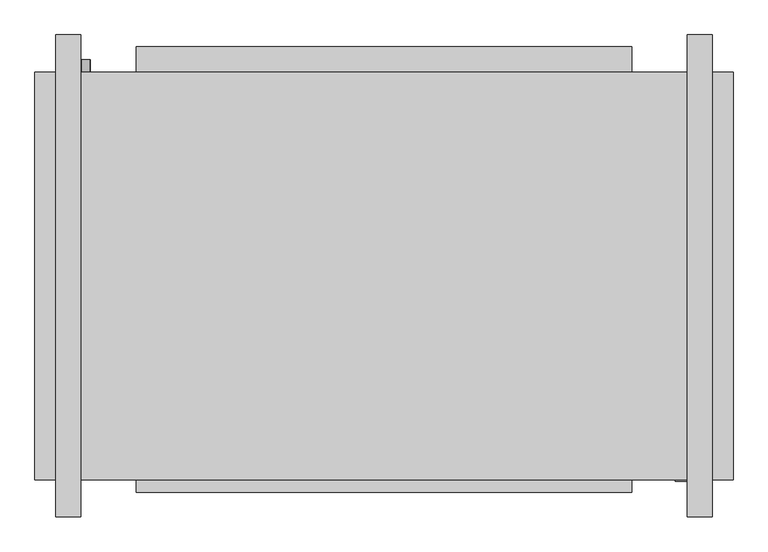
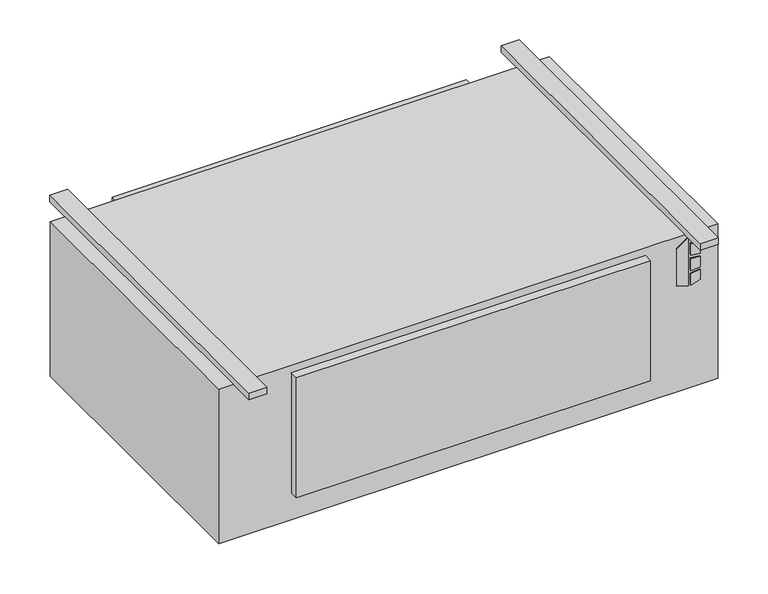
"""IFC4 building model written with IfcOpenShell, lengths in millimetres: proxy geometry, Concealed_High_Capacity_Horizontal_Cabinet_Fan_Coil_Unit_-_HXY_-_IEC_-_2-Pipe_Cool-EHeat_LH_2022 : Size 16 - 277v/60Hz/1Ph - 6 Row 12.0kW."""

import ifcopenshell
import ifcopenshell.guid

model = None  # the IFC model being written
_history = None  # IfcOwnerHistory: only IFC2X3 demands one
_inside = {}  # id of a spatial element -> (the spatial element, [elements in it])
_under = {}  # id of a project, library or spatial element -> (it, [spatial elements below it])
_declared = {}  # id of a project -> (the project, [libraries it declares])
_typed = {}  # id of a type object -> (the type object, [elements of that type])
_made_of = {}  # id of a material, layer set ... -> (it, [elements and type objects made of it])


def new_model(schema):
    """Start an empty IFC model of exactly this schema.

    Asked for "IFC4X3", IfcOpenShell would pick the latest addendum, in which some entities
    have other attributes; the version numbers below select the first issue.
    IFC2X3 requires an IfcOwnerHistory on every rooted entity: one is made here for all.
    """
    global model, _history
    if schema == "IFC4X3":
        model = ifcopenshell.file(schema_version=(4, 3, 0, 0))
    else:
        model = ifcopenshell.file(schema=schema)
    _inside.clear()
    _under.clear()
    _declared.clear()
    _typed.clear()
    _made_of.clear()
    _history = None
    if model.schema == "IFC2X3":
        org = make("IfcOrganization", Name="unknown")
        user = make(
            "IfcPersonAndOrganization",
            ThePerson=make("IfcPerson", FamilyName="unknown"),
            TheOrganization=org,
        )
        app = make(
            "IfcApplication",
            ApplicationDeveloper=org,
            Version="unknown",
            ApplicationFullName="unknown",
            ApplicationIdentifier="unknown",
        )
        _history = make(
            "IfcOwnerHistory",
            OwningUser=user,
            OwningApplication=app,
            ChangeAction="ADDED",
            CreationDate=0,
        )
    return model


def make(cls, **values):
    """One entity of the class cls with the attributes given. An attribute that is None is left unset."""
    return model.create_entity(
        cls, **{name: value for name, value in values.items() if value is not None}
    )


def rooted(cls, **values):
    """An entity with a GlobalId (a new one), such as an element, a storey or a relation."""
    return make(cls, GlobalId=ifcopenshell.guid.new(), OwnerHistory=_history, **values)


def si_unit(unit_type, name, prefix=None):
    """IfcSIUnit, for example si_unit("LENGTHUNIT", "METRE", prefix="MILLI")."""
    return make("IfcSIUnit", UnitType=unit_type, Prefix=prefix, Name=name)


def assignment(units):
    """IfcUnitAssignment: the units of a project."""
    return None if units is None else make("IfcUnitAssignment", Units=units)


def point(xyz):
    """IfcCartesianPoint."""
    return None if xyz is None else make("IfcCartesianPoint", Coordinates=xyz)


def direction(xyz):
    """IfcDirection."""
    return None if xyz is None else make("IfcDirection", DirectionRatios=xyz)


def frame(location, z_axis=None, x_axis=None):
    """IfcAxis2Placement3D, a coordinate frame: its origin and axes. An axis left out is left unset."""
    return make(
        "IfcAxis2Placement3D",
        Location=point(location),
        Axis=direction(z_axis),
        RefDirection=direction(x_axis),
    )


def frame_2d(location, x_axis=None):
    """IfcAxis2Placement2D, a coordinate frame in the plane: its origin and x axis."""
    return make(
        "IfcAxis2Placement2D", Location=point(location), RefDirection=direction(x_axis)
    )


def origin():
    """The frame at (0, 0, 0) with its axes left unset."""
    return frame((0.0, 0.0, 0.0))


def origin_with_axes():
    """The frame at (0, 0, 0) with the z axis (0, 0, 1) and the x axis (1, 0, 0) written out."""
    return frame((0.0, 0.0, 0.0), z_axis=(0.0, 0.0, 1.0), x_axis=(1.0, 0.0, 0.0))


def place(relative_to, where):
    """IfcLocalPlacement: puts the frame where relative to a parent placement (None: the world)."""
    return make(
        "IfcLocalPlacement", PlacementRelTo=relative_to, RelativePlacement=where
    )


def context(
    kind, dimensions, precision=None, world=None, true_north=None, identifier=None
):
    """IfcGeometricRepresentationContext, for example the 3D "Model" context."""
    return make(
        "IfcGeometricRepresentationContext",
        ContextIdentifier=identifier,
        ContextType=kind,
        CoordinateSpaceDimension=dimensions,
        Precision=precision,
        WorldCoordinateSystem=world,
        TrueNorth=true_north,
    )


def project(units=None, contexts=None):
    """IfcProject with its units and contexts."""
    return rooted(
        "IfcProject",
        Name="project",
        RepresentationContexts=contexts,
        UnitsInContext=assignment(units),
    )


def spatial(cls, under=None, at=None, **own):
    """A site, building, storey or space (cls), placed at a placement, below another one or the project."""
    s = rooted(cls, ObjectPlacement=at, **own)
    if under is not None:
        _under.setdefault(under.id(), (under, []))[1].append(s)
    return s


def polyline(points):
    """IfcPolyline through the points."""
    return make("IfcPolyline", Points=[point(p) for p in points])


def circle_curve(where, radius):
    """IfcCircle in the frame where."""
    return make("IfcCircle", Position=where, Radius=radius)


def trimmed(basis, trim1, trim2, sense, master):
    """IfcTrimmedCurve: the piece of a basis curve between two trims."""
    return make(
        "IfcTrimmedCurve",
        BasisCurve=basis,
        Trim1=trim1,
        Trim2=trim2,
        SenseAgreement=sense,
        MasterRepresentation=master,
    )


def segment(curve, same_sense, transition):
    """IfcCompositeCurveSegment."""
    return make(
        "IfcCompositeCurveSegment",
        Transition=transition,
        SameSense=same_sense,
        ParentCurve=curve,
    )


def composite_curve(segments, self_intersect=None):
    """IfcCompositeCurve: segments joined end to end."""
    return make("IfcCompositeCurve", Segments=segments, SelfIntersect=self_intersect)


def outline(outer, holes=None, kind="AREA"):
    """IfcArbitraryClosedProfileDef: a profile drawn as a closed curve; with holes, ...WithVoids."""
    if holes is None:
        return make("IfcArbitraryClosedProfileDef", ProfileType=kind, OuterCurve=outer)
    return make(
        "IfcArbitraryProfileDefWithVoids",
        ProfileType=kind,
        OuterCurve=outer,
        InnerCurves=holes,
    )


def extrude(swept, where, along, depth):
    """IfcExtrudedAreaSolid: the profile swept, set in the frame where, extruded along a direction by depth."""
    return make(
        "IfcExtrudedAreaSolid",
        SweptArea=swept,
        Position=where,
        ExtrudedDirection=direction(along),
        Depth=depth,
    )


def shape(context_of_items, identifier, shape_type, items):
    """IfcShapeRepresentation: the items that make up one representation, for example the "Body"."""
    return make(
        "IfcShapeRepresentation",
        ContextOfItems=context_of_items,
        RepresentationIdentifier=identifier,
        RepresentationType=shape_type,
        Items=items,
    )


def source(mapping_origin, context_of_items, identifier, shape_type, items):
    """IfcRepresentationMap: a shape defined once, which mapped items show again and again."""
    return make(
        "IfcRepresentationMap",
        MappingOrigin=mapping_origin,
        MappedRepresentation=shape(context_of_items, identifier, shape_type, items),
    )


def transform(
    local_origin,
    x_axis=None,
    y_axis=None,
    z_axis=None,
    scale=None,
    scale2=None,
    scale3=None,
    uniform=True,
):
    """IfcCartesianTransformationOperator3D, or its non-uniform kind. x_axis, y_axis, z_axis: its Axis1, 2, 3."""
    if uniform:
        return make(
            "IfcCartesianTransformationOperator3D",
            Axis1=direction(x_axis),
            Axis2=direction(y_axis),
            LocalOrigin=point(local_origin),
            Scale=scale,
            Axis3=direction(z_axis),
        )
    return make(
        "IfcCartesianTransformationOperator3DnonUniform",
        Axis1=direction(x_axis),
        Axis2=direction(y_axis),
        LocalOrigin=point(local_origin),
        Scale=scale,
        Axis3=direction(z_axis),
        Scale2=scale2,
        Scale3=scale3,
    )


def mapped(mapping_source, mapping_target):
    """IfcMappedItem: shows the shape of a source again, moved by a transform."""
    return make(
        "IfcMappedItem", MappingSource=mapping_source, MappingTarget=mapping_target
    )


def made_of(thing, what):
    """Note that an element or type object is made of a material, layer set ...; save() writes the relation."""
    if what is not None:
        _made_of.setdefault(what.id(), (what, []))[1].append(thing)
    return thing


def element(
    cls,
    number,
    at=None,
    inside=None,
    cuts=None,
    type_object=None,
    material=None,
    context=None,
    identifier="Body",
    shape_type=None,
    held_by="IfcProductDefinitionShape",
    body=None,
    shapes=None,
    **own,
):
    """One element of the class cls, such as IfcWall. Its Tag is "e" and its number.

    at: its placement. inside: the storey or other place that contains it. cuts: it is an
    opening in that element (IfcRelVoidsElement). A single representation is given by context,
    identifier, shape_type and body (its items); several are given by shapes. held_by: the class
    of the entity that holds the representations. save() writes the other relations.
    """
    e = rooted(cls, Tag="e%d" % number, ObjectPlacement=at, **own)
    if body is not None:
        shapes = [shape(context, identifier, shape_type, body)]
    if shapes is not None:
        e.Representation = make(held_by, Representations=shapes)
    if inside is not None:
        _inside.setdefault(inside.id(), (inside, []))[1].append(e)
    if cuts is not None:
        rooted(
            "IfcRelVoidsElement", RelatingBuildingElement=cuts, RelatedOpeningElement=e
        )
    if type_object is not None:
        _typed.setdefault(type_object.id(), (type_object, []))[1].append(e)
    return made_of(e, material)


def aggregate(whole, parts):
    """IfcRelAggregates: a whole, such as a stair, and the parts it consists of."""
    return rooted("IfcRelAggregates", RelatingObject=whole, RelatedObjects=parts)


def save(model, path):
    """Write the relations noted so far, then the file.

    IfcRelAggregates (storeys below a building ...), IfcRelContainedInSpatialStructure (elements
    in a storey), IfcRelDefinesByType, IfcRelAssociatesMaterial and IfcRelDeclares: one each for
    every whole, place, type object, material and project.
    """
    for whole, parts in _under.values():
        aggregate(whole, parts)
    for where, things in _inside.values():
        rooted(
            "IfcRelContainedInSpatialStructure",
            RelatedElements=things,
            RelatingStructure=where,
        )
    for kind, things in _typed.values():
        rooted("IfcRelDefinesByType", RelatedObjects=things, RelatingType=kind)
    for what, things in _made_of.values():
        rooted("IfcRelAssociatesMaterial", RelatedObjects=things, RelatingMaterial=what)
    for by, libraries in _declared.values():
        rooted("IfcRelDeclares", RelatingContext=by, RelatedDefinitions=libraries)
    model.write(path)


def mechanical_equipment_b07f00d8(model_context):
    return source(origin(), model_context, "Body", "SweptSolid", [
        extrude(outline(polyline([(-142.4519297, 735.0868862), (-152.4, 767.2602728), (-10.2290756, 767.2602728), (-33.2510817, 735.0868862), (-142.4519297, 735.0868862)])), frame((0.0, -649.2875, 0.0), z_axis=(0.0, 1.0, 0.0), x_axis=(0.0, 0.0, 1.0)), (0.0, 0.0, 1.0), 3.175),
        extrude(outline(polyline([(-63.4526443, 774.0186058), (-66.6550368, 800.1), (-37.4261958, 800.1), (-29.3617807, 774.0186058), (-63.4526443, 774.0186058)])), frame((0.0, -649.2875, 0.0), z_axis=(0.0, 1.0, 0.0), x_axis=(0.0, 0.0, 1.0)), (0.0, 0.0, 1.0), 3.175),
        extrude(outline(polyline([(-115.3161712, 800.1), (-118.9816721, 774.0186058), (-152.4, 774.0186058), (-143.7657628, 800.1), (-115.3161712, 800.1)])), frame((0.0, -649.2875, 0.0), z_axis=(0.0, 1.0, 0.0), x_axis=(0.0, 0.0, 1.0)), (0.0, 0.0, 1.0), 3.175),
        extrude(outline(polyline([(-76.0010097, 800.1), (-73.7191834, 774.0186058), (-109.6567319, 774.0186058), (-106.9154669, 800.1), (-76.0010097, 800.1)])), frame((0.0, -649.2875, 0.0), z_axis=(0.0, 1.0, 0.0), x_axis=(0.0, 0.0, 1.0)), (0.0, 0.0, 1.0), 3.175),
        extrude(outline(composite_curve([segment(trimmed(circle_curve(frame_2d((-406.4, -444.5)), 9.525), [point((-406.4, -454.025))], [point((-406.4, -434.975))], False, "CARTESIAN"), True, "CONTINUOUS"), segment(trimmed(circle_curve(frame_2d((-406.4, -444.5)), 9.525), [point((-406.4, -434.975))], [point((-406.4, -454.025))], False, "CARTESIAN"), True, "CONTINUOUS")], self_intersect=False)), frame((0.0, 169.8625, 0.0), z_axis=(0.0, 1.0, 0.0), x_axis=(0.0, 0.0, 1.0)), (0.0, 0.0, 1.0), 25.4),
        extrude(outline(composite_curve([segment(trimmed(circle_curve(frame_2d((-330.2, -444.5)), 7.9375), [point((-330.2, -452.4375))], [point((-330.2, -436.5625))], False, "CARTESIAN"), True, "CONTINUOUS"), segment(trimmed(circle_curve(frame_2d((-330.2, -444.5)), 7.9375), [point((-330.2, -436.5625))], [point((-330.2, -452.4375))], False, "CARTESIAN"), True, "CONTINUOUS")], self_intersect=False)), frame((0.0, 169.8625, 0.0), z_axis=(0.0, 1.0, 0.0), x_axis=(0.0, 0.0, 1.0)), (0.0, 0.0, 1.0), 25.4),
        extrude(outline(composite_curve([segment(trimmed(circle_curve(frame_2d((-254.0, -444.5)), 7.9375), [point((-254.0, -452.4375))], [point((-254.0, -436.5625))], False, "CARTESIAN"), True, "CONTINUOUS"), segment(trimmed(circle_curve(frame_2d((-254.0, -444.5)), 7.9375), [point((-254.0, -436.5625))], [point((-254.0, -452.4375))], False, "CARTESIAN"), True, "CONTINUOUS")], self_intersect=False)), frame((0.0, 169.8625, 0.0), z_axis=(0.0, 1.0, 0.0), x_axis=(0.0, 0.0, 1.0)), (0.0, 0.0, 1.0), 25.4),
        extrude(outline(polyline([(850.9, 169.8625), (850.9, -646.1125), (-546.1, -646.1125), (-546.1, 169.8625), (850.9, 169.8625)])), frame((0.0, 0.0, -457.2), z_axis=(0.0, 0.0, 1.0), x_axis=(1.0, 0.0, 0.0)), (0.0, 0.0, 1.0), 457.2),
        extrude(outline(polyline([(-342.9, 220.6625), (647.7, 220.6625), (647.7, 169.8625), (-342.9, 169.8625), (-342.9, 220.6625)])), frame((0.0, 0.0, -377.825), z_axis=(0.0, 0.0, 1.0), x_axis=(1.0, 0.0, 0.0)), (0.0, 0.0, 1.0), 349.25),
        extrude(outline(polyline([(-454.025, 244.475), (-454.025, -720.725), (-504.825, -720.725), (-504.825, 244.475), (-454.025, 244.475)])), origin_with_axes(), (0.0, 0.0, 1.0), 19.05),
        extrude(outline(polyline([(809.625, 244.475), (809.625, -720.725), (758.825, -720.725), (758.825, 244.475), (809.625, 244.475)])), origin_with_axes(), (0.0, 0.0, 1.0), 19.05),
        extrude(outline(polyline([(647.7, -671.5125), (-342.9, -671.5125), (-342.9, -646.1125), (647.7, -646.1125), (647.7, -671.5125)])), frame((0.0, 0.0, -377.825), z_axis=(0.0, 0.0, 1.0), x_axis=(1.0, 0.0, 0.0)), (0.0, 0.0, 1.0), 355.6),
    ])


if __name__ == "__main__":
    model = new_model("IFC4")
    model_context = context("Model", 3, world=origin())
    ifc_project = project(units=[si_unit("LENGTHUNIT", "METRE", prefix="MILLI")], contexts=[model_context])
    site = spatial("IfcSite", under=ifc_project)
    building = spatial("IfcBuilding", under=site)
    placement = place(None, origin())
    mechanical_equipment_shape = mechanical_equipment_b07f00d8(model_context)
    element("IfcBuildingElementProxy", 1, Name="Concealed_High_Capacity_Horizontal_Cabinet_Fan_Coil_Unit_-_HXY_-_IEC_-_2-Pipe_Cool-EHeat_LH_2022 : Size 16 - 277v/60Hz/1Ph - 6 Row 12.0kW", ObjectType="Concealed_High_Capacity_Horizontal_Cabinet_Fan_Coil_Unit_-_HXY_-_IEC_-_2-Pipe_Cool-EHeat_LH_2022 : Size 16 - 277v/60Hz/1Ph - 6 Row 12.0kW", at=placement, inside=building, context=model_context, shape_type="MappedRepresentation", body=[
        mapped(mechanical_equipment_shape, transform((0.0, 0.0, 0.0), x_axis=(1.0, 0.0, 0.0), y_axis=(0.0, 1.0, 0.0), z_axis=(0.0, 0.0, 1.0))),
    ])
    save(model, "model.ifc")
